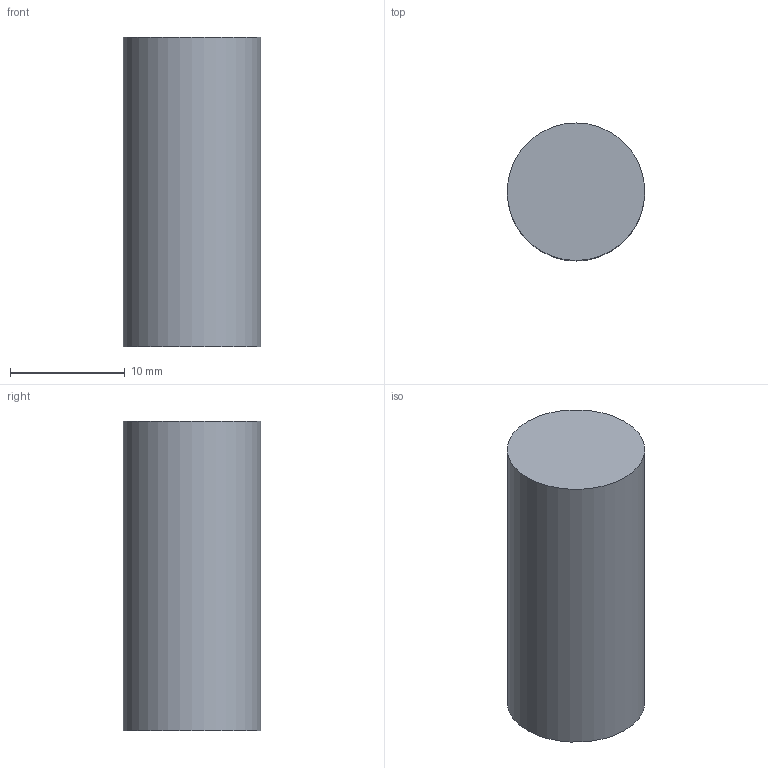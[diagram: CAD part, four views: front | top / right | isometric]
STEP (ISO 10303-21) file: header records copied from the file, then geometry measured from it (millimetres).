
FILE_DESCRIPTION(('Open CASCADE Model'),'2;1');
FILE_NAME('Open CASCADE Shape Model','2026-10-04T01:02:34',('Author'),( 'Open CASCADE'),'Open CASCADE STEP processor 8.0','Open CASCADE 8.0' ,'Unknown');
FILE_SCHEMA(('AUTOMOTIVE_DESIGN { 1 0 10303 214 1 1 1 1 }'));
Length unit declared in the file: millimetre
Products named in the file (1): Open CASCADE STEP translator 8.0 370
Bounding box: 12 x 12 x 27 mm (x, y, z)
Volume: 3053.6 mm3; surface area: 1244.1 mm2
Topology: 1 solids, 1 shells, 3 faces, 3 edges, 2 vertices
Faces by surface type: plane 2, cylinder 1
Full cylindrical faces by diameter (mm): 12 x1
Entity records: 108 total; most frequent: DIRECTION 19, CARTESIAN_POINT 15, AXIS2_PLACEMENT_3D 6, ORIENTED_EDGE 6, PCURVE 6, DEFINITIONAL_REPRESENTATION 6, LINE 5, VECTOR 5
